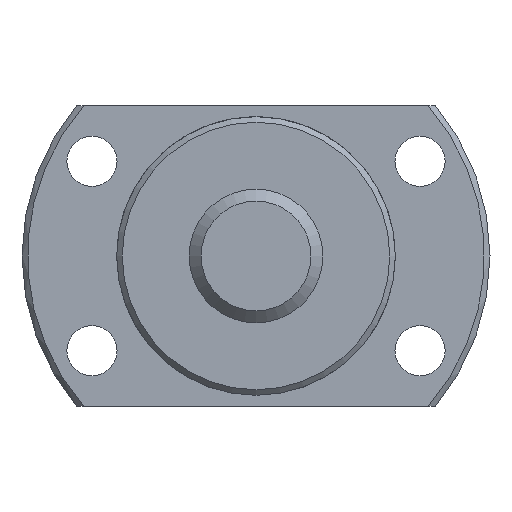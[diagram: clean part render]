
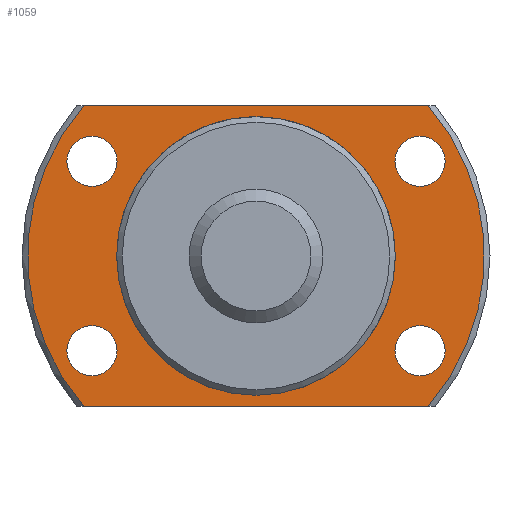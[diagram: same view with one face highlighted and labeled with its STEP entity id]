
A CAD part, left-side view. The second image highlights one B-rep face of the part: STEP entity #1059.
In plain terms, the highlighted planar face has unit normal (-1, 0, 0).
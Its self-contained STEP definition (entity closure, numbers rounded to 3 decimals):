
#91=LINE('',#1801,#161);
#92=LINE('',#1805,#162);
#161=VECTOR('',#1448,1000.);
#162=VECTOR('',#1451,1000.);
#319=ORIENTED_EDGE('',*,*,#559,.T.);
#320=ORIENTED_EDGE('',*,*,#560,.T.);
#321=ORIENTED_EDGE('',*,*,#561,.T.);
#322=ORIENTED_EDGE('',*,*,#562,.T.);
#323=ORIENTED_EDGE('',*,*,#548,.F.);
#324=ORIENTED_EDGE('',*,*,#563,.F.);
#325=ORIENTED_EDGE('',*,*,#564,.F.);
#326=ORIENTED_EDGE('',*,*,#565,.F.);
#327=ORIENTED_EDGE('',*,*,#542,.T.);
#542=EDGE_CURVE('',#671,#671,#754,.T.);
#548=EDGE_CURVE('',#676,#677,#757,.T.);
#559=EDGE_CURVE('',#686,#686,#763,.T.);
#560=EDGE_CURVE('',#687,#687,#764,.T.);
#561=EDGE_CURVE('',#688,#688,#765,.T.);
#562=EDGE_CURVE('',#689,#689,#766,.T.);
#563=EDGE_CURVE('',#690,#676,#91,.T.);
#564=EDGE_CURVE('',#691,#690,#767,.T.);
#565=EDGE_CURVE('',#677,#691,#92,.T.);
#671=VERTEX_POINT('',#1744);
#676=VERTEX_POINT('',#1758);
#677=VERTEX_POINT('',#1760);
#686=VERTEX_POINT('',#1794);
#687=VERTEX_POINT('',#1796);
#688=VERTEX_POINT('',#1798);
#689=VERTEX_POINT('',#1800);
#690=VERTEX_POINT('',#1802);
#691=VERTEX_POINT('',#1804);
#754=CIRCLE('',#1188,12.25);
#757=CIRCLE('',#1192,20.5);
#763=CIRCLE('',#1203,2.25);
#764=CIRCLE('',#1204,2.25);
#765=CIRCLE('',#1205,2.25);
#766=CIRCLE('',#1206,2.25);
#767=CIRCLE('',#1207,20.5);
#827=EDGE_LOOP('',(#319));
#828=EDGE_LOOP('',(#320));
#829=EDGE_LOOP('',(#321));
#830=EDGE_LOOP('',(#322));
#831=EDGE_LOOP('',(#323,#324,#325,#326));
#832=EDGE_LOOP('',(#327));
#931=FACE_BOUND('',#827,.T.);
#932=FACE_BOUND('',#828,.T.);
#933=FACE_BOUND('',#829,.T.);
#934=FACE_BOUND('',#830,.T.);
#935=FACE_BOUND('',#831,.T.);
#936=FACE_BOUND('',#832,.T.);
#997=PLANE('',#1202);
#1059=ADVANCED_FACE('',(#931,#932,#933,#934,#935,#936),#997,.F.);
#1188=AXIS2_PLACEMENT_3D('',#1743,#1406,#1407);
#1192=AXIS2_PLACEMENT_3D('',#1759,#1416,#1417);
#1202=AXIS2_PLACEMENT_3D('',#1792,#1438,#1439);
#1203=AXIS2_PLACEMENT_3D('',#1793,#1440,#1441);
#1204=AXIS2_PLACEMENT_3D('',#1795,#1442,#1443);
#1205=AXIS2_PLACEMENT_3D('',#1797,#1444,#1445);
#1206=AXIS2_PLACEMENT_3D('',#1799,#1446,#1447);
#1207=AXIS2_PLACEMENT_3D('',#1803,#1449,#1450);
#1406=DIRECTION('',(1.,0.,0.));
#1407=DIRECTION('',(0.,0.,-1.));
#1416=DIRECTION('',(1.,0.,0.));
#1417=DIRECTION('',(0.,0.,-1.));
#1438=DIRECTION('',(1.,0.,0.));
#1439=DIRECTION('',(0.,0.,-1.));
#1440=DIRECTION('',(1.,0.,0.));
#1441=DIRECTION('',(0.,0.,-1.));
#1442=DIRECTION('',(1.,0.,0.));
#1443=DIRECTION('',(0.,0.,-1.));
#1444=DIRECTION('',(1.,0.,0.));
#1445=DIRECTION('',(0.,0.,-1.));
#1446=DIRECTION('',(1.,0.,0.));
#1447=DIRECTION('',(0.,0.,-1.));
#1448=DIRECTION('',(0.,1.,0.));
#1449=DIRECTION('',(1.,0.,0.));
#1450=DIRECTION('',(0.,0.,-1.));
#1451=DIRECTION('',(0.,-1.,0.));
#1743=CARTESIAN_POINT('',(19.,0.,0.));
#1744=CARTESIAN_POINT('',(19.,0.,-12.25));
#1758=CARTESIAN_POINT('',(19.,15.427,-13.5));
#1759=CARTESIAN_POINT('',(19.,0.,0.));
#1760=CARTESIAN_POINT('',(19.,15.427,13.5));
#1792=CARTESIAN_POINT('',(19.,12.25,0.));
#1793=CARTESIAN_POINT('',(19.,-14.722,-8.5));
#1794=CARTESIAN_POINT('',(19.,-14.722,-10.75));
#1795=CARTESIAN_POINT('',(19.,-14.722,8.5));
#1796=CARTESIAN_POINT('',(19.,-14.722,6.25));
#1797=CARTESIAN_POINT('',(19.,14.722,-8.5));
#1798=CARTESIAN_POINT('',(19.,14.722,-10.75));
#1799=CARTESIAN_POINT('',(19.,14.722,8.5));
#1800=CARTESIAN_POINT('',(19.,14.722,6.25));
#1801=CARTESIAN_POINT('',(19.,-26.,-13.5));
#1802=CARTESIAN_POINT('',(19.,-15.427,-13.5));
#1803=CARTESIAN_POINT('',(19.,0.,0.));
#1804=CARTESIAN_POINT('',(19.,-15.427,13.5));
#1805=CARTESIAN_POINT('',(19.,26.,13.5));
